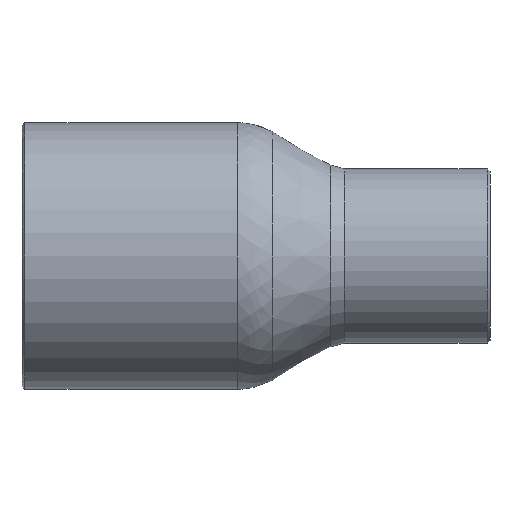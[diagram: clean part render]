
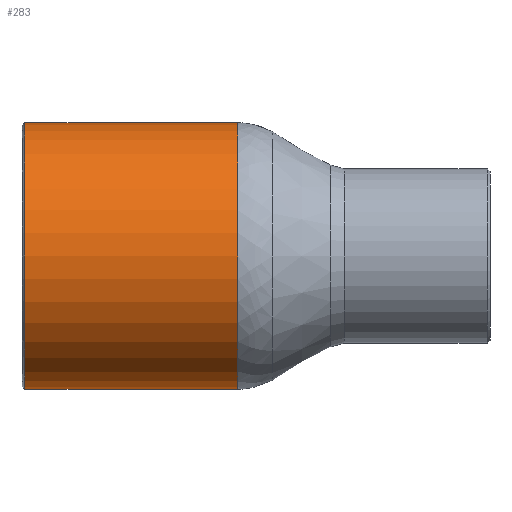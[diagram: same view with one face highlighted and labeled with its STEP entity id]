
A CAD part, front view. The second image highlights one B-rep face of the part: STEP entity #283.
In plain terms, the highlighted cylindrical face has radius 9.525 mm (diameter 19.05 mm), a full revolution.
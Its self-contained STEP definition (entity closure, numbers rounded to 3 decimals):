
#252=CARTESIAN_POINT('',(-24.6,9.525,0.));
#253=VERTEX_POINT('',#252);
#254=CARTESIAN_POINT('',(-24.6,0.0,0.0));
#255=DIRECTION('',(-1.0,0.0,0.0));
#256=DIRECTION('',(0.0,-1.0,0.0));
#257=AXIS2_PLACEMENT_3D('',#254,#255,#256);
#258=CIRCLE('',#257,9.525);
#259=EDGE_CURVE('',#253,#253,#258,.T.);
#264=CARTESIAN_POINT('',(-17.1,0.0,0.0));
#265=DIRECTION('',(1.0,0.0,0.0));
#266=DIRECTION('',(0.0,1.0,0.0));
#267=AXIS2_PLACEMENT_3D('',#264,#265,#266);
#268=CYLINDRICAL_SURFACE('',#267,9.525);
#269=CARTESIAN_POINT('',(-9.4,9.525,0.0));
#270=VERTEX_POINT('',#269);
#271=CARTESIAN_POINT('',(-9.4,0.0,0.0));
#272=DIRECTION('',(1.0,0.0,0.0));
#273=DIRECTION('',(0.0,1.0,0.0));
#274=AXIS2_PLACEMENT_3D('',#271,#272,#273);
#275=CIRCLE('',#274,9.525);
#276=EDGE_CURVE('',#270,#270,#275,.T.);
#277=ORIENTED_EDGE('',*,*,#276,.F.);
#278=EDGE_LOOP('',(#277));
#279=FACE_OUTER_BOUND('',#278,.T.);
#280=ORIENTED_EDGE('',*,*,#259,.F.);
#281=EDGE_LOOP('',(#280));
#282=FACE_BOUND('',#281,.T.);
#283=ADVANCED_FACE('',(#279,#282),#268,.T.);
